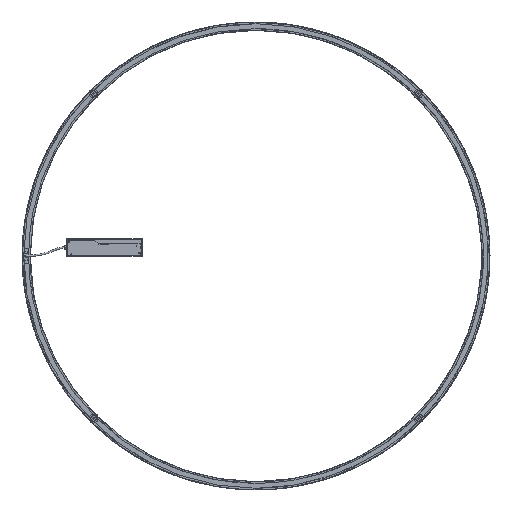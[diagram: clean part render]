
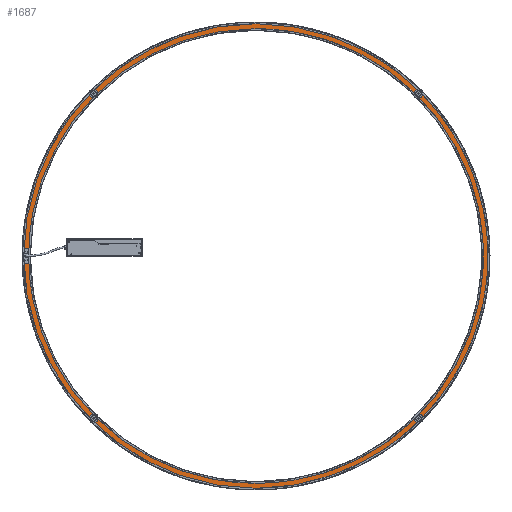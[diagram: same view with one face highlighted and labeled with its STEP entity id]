
A CAD part, top view. The second image highlights one B-rep face of the part: STEP entity #1687.
In plain terms, the highlighted planar face has unit normal (0, 0, 1).
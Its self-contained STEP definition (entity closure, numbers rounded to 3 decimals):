
#1687=ADVANCED_FACE('',(#3451),#24707,.T.);
#3451=FACE_OUTER_BOUND('',#5308,.T.);
#5308=EDGE_LOOP('',(#11810,#11811,#11812,#11813,#11814,#11815,#11816,#11817,
#11818,#11819,#11820,#11821,#11822));
#11810=ORIENTED_EDGE('',*,*,#17045,.T.);
#11811=ORIENTED_EDGE('',*,*,#16777,.F.);
#11812=ORIENTED_EDGE('',*,*,#16987,.F.);
#11813=ORIENTED_EDGE('',*,*,#16014,.F.);
#11814=ORIENTED_EDGE('',*,*,#16018,.F.);
#11815=ORIENTED_EDGE('',*,*,#16760,.T.);
#11816=ORIENTED_EDGE('',*,*,#15848,.T.);
#11817=ORIENTED_EDGE('',*,*,#17050,.T.);
#11818=ORIENTED_EDGE('',*,*,#17039,.T.);
#11819=ORIENTED_EDGE('',*,*,#16990,.T.);
#11820=ORIENTED_EDGE('',*,*,#16011,.T.);
#11821=ORIENTED_EDGE('',*,*,#16007,.T.);
#11822=ORIENTED_EDGE('',*,*,#16989,.T.);
#15848=EDGE_CURVE('',#23193,#23192,#18766,.T.);
#16007=EDGE_CURVE('',#23297,#23298,#18882,.T.);
#16011=EDGE_CURVE('',#23301,#23297,#18884,.T.);
#16014=EDGE_CURVE('',#23303,#23304,#18886,.T.);
#16018=EDGE_CURVE('',#23307,#23303,#18888,.T.);
#16760=EDGE_CURVE('',#23307,#23193,#21353,.T.);
#16777=EDGE_CURVE('',#23786,#23769,#21370,.T.);
#16987=EDGE_CURVE('',#23304,#23786,#19547,.T.);
#16989=EDGE_CURVE('',#23298,#23828,#21445,.T.);
#16990=EDGE_CURVE('',#23830,#23301,#19549,.T.);
#17039=EDGE_CURVE('',#23829,#23830,#21463,.T.);
#17045=EDGE_CURVE('',#23828,#23769,#19581,.T.);
#17050=EDGE_CURVE('',#23192,#23829,#19584,.T.);
#18766=(
BOUNDED_CURVE()
B_SPLINE_CURVE(2,(#78005,#78006,#78007),.UNSPECIFIED.,.F.,.F.)
B_SPLINE_CURVE_WITH_KNOTS((3,3),(-7.521,0.),.UNSPECIFIED.)
CURVE()
GEOMETRIC_REPRESENTATION_ITEM()
RATIONAL_B_SPLINE_CURVE((1.,0.73,1.))
REPRESENTATION_ITEM('')
);
#18882=(
BOUNDED_CURVE()
B_SPLINE_CURVE(2,(#78499,#78500,#78501),.UNSPECIFIED.,.F.,.F.)
B_SPLINE_CURVE_WITH_KNOTS((3,3),(-1528.149,0.),.UNSPECIFIED.)
CURVE()
GEOMETRIC_REPRESENTATION_ITEM()
RATIONAL_B_SPLINE_CURVE((1.,0.707,1.))
REPRESENTATION_ITEM('')
);
#18884=(
BOUNDED_CURVE()
B_SPLINE_CURVE(2,(#78509,#78510,#78511,#78512,#78513),.UNSPECIFIED.,.F.,
 .F.)
B_SPLINE_CURVE_WITH_KNOTS((3,2,3),(-3056.298,-1528.149,
0.),.UNSPECIFIED.)
CURVE()
GEOMETRIC_REPRESENTATION_ITEM()
RATIONAL_B_SPLINE_CURVE((1.,0.707,1.,0.707,1.))
REPRESENTATION_ITEM('')
);
#18886=(
BOUNDED_CURVE()
B_SPLINE_CURVE(2,(#78521,#78522,#78523,#78524,#78525),.UNSPECIFIED.,.F.,
 .F.)
B_SPLINE_CURVE_WITH_KNOTS((3,2,3),(0.,1480.711,2961.422),
 .UNSPECIFIED.)
CURVE()
GEOMETRIC_REPRESENTATION_ITEM()
RATIONAL_B_SPLINE_CURVE((1.,0.707,1.,0.707,1.))
REPRESENTATION_ITEM('')
);
#18888=(
BOUNDED_CURVE()
B_SPLINE_CURVE(2,(#78535,#78536,#78537),.UNSPECIFIED.,.F.,.F.)
B_SPLINE_CURVE_WITH_KNOTS((3,3),(0.,1480.382),.UNSPECIFIED.)
CURVE()
GEOMETRIC_REPRESENTATION_ITEM()
RATIONAL_B_SPLINE_CURVE((1.,0.707,1.))
REPRESENTATION_ITEM('')
);
#19547=(
BOUNDED_CURVE()
B_SPLINE_CURVE(2,(#81428,#81429,#81430),.UNSPECIFIED.,.F.,.F.)
B_SPLINE_CURVE_WITH_KNOTS((3,3),(0.,1480.711),.UNSPECIFIED.)
CURVE()
GEOMETRIC_REPRESENTATION_ITEM()
RATIONAL_B_SPLINE_CURVE((1.,0.707,1.))
REPRESENTATION_ITEM('')
);
#19549=(
BOUNDED_CURVE()
B_SPLINE_CURVE(2,(#81436,#81437,#81438),.UNSPECIFIED.,.F.,.F.)
B_SPLINE_CURVE_WITH_KNOTS((3,3),(-1527.81,0.),.UNSPECIFIED.)
CURVE()
GEOMETRIC_REPRESENTATION_ITEM()
RATIONAL_B_SPLINE_CURVE((1.,0.707,1.))
REPRESENTATION_ITEM('')
);
#19581=(
BOUNDED_CURVE()
B_SPLINE_CURVE(2,(#81578,#81579,#81580,#81581,#81582),.UNSPECIFIED.,.F.,
 .F.)
B_SPLINE_CURVE_WITH_KNOTS((3,2,3),(-15.708,-7.854,
0.),.UNSPECIFIED.)
CURVE()
GEOMETRIC_REPRESENTATION_ITEM()
RATIONAL_B_SPLINE_CURVE((1.,0.707,1.,0.707,1.))
REPRESENTATION_ITEM('')
);
#19584=(
BOUNDED_CURVE()
B_SPLINE_CURVE(2,(#81595,#81596,#81597),.UNSPECIFIED.,.F.,.F.)
B_SPLINE_CURVE_WITH_KNOTS((3,3),(-7.518,0.),.UNSPECIFIED.)
CURVE()
GEOMETRIC_REPRESENTATION_ITEM()
RATIONAL_B_SPLINE_CURVE((1.,0.73,1.))
REPRESENTATION_ITEM('')
);
#21353=B_SPLINE_CURVE_WITH_KNOTS('',1,(#80829,#80830),.UNSPECIFIED.,.F.,
 .F.,(2,2),(-10.111,0.),.UNSPECIFIED.);
#21370=B_SPLINE_CURVE_WITH_KNOTS('',1,(#80863,#80864),.UNSPECIFIED.,.F.,
 .F.,(2,2),(0.,10.1),.UNSPECIFIED.);
#21445=B_SPLINE_CURVE_WITH_KNOTS('',1,(#81434,#81435),.UNSPECIFIED.,.F.,
 .F.,(2,2),(0.,10.1),.UNSPECIFIED.);
#21463=B_SPLINE_CURVE_WITH_KNOTS('',1,(#81566,#81567),.UNSPECIFIED.,.F.,
 .F.,(2,2),(-10.111,0.),.UNSPECIFIED.);
#23192=VERTEX_POINT('',#76656);
#23193=VERTEX_POINT('',#76657);
#23297=VERTEX_POINT('',#76761);
#23298=VERTEX_POINT('',#76762);
#23301=VERTEX_POINT('',#76765);
#23303=VERTEX_POINT('',#76767);
#23304=VERTEX_POINT('',#76768);
#23307=VERTEX_POINT('',#76771);
#23769=VERTEX_POINT('',#77233);
#23786=VERTEX_POINT('',#77250);
#23828=VERTEX_POINT('',#77292);
#23829=VERTEX_POINT('',#77293);
#23830=VERTEX_POINT('',#77294);
#24707=PLANE('',#26407);
#26407=AXIS2_PLACEMENT_3D('',#75049,#26932,$);
#26932=DIRECTION('',(0.,0.,1.));
#75049=CARTESIAN_POINT('',(-1167.42,1138.372,2.348));
#76656=CARTESIAN_POINT('',(-957.75,-34.048,2.348));
#76657=CARTESIAN_POINT('',(-952.761,-29.381,2.348));
#76761=CARTESIAN_POINT('',(0.,943.802,2.348));
#76762=CARTESIAN_POINT('',(-972.85,-29.048,2.348));
#76765=CARTESIAN_POINT('',(0.,-1001.898,2.348));
#76767=CARTESIAN_POINT('',(0.,-971.698,2.348));
#76768=CARTESIAN_POINT('',(0.,913.602,2.348));
#76771=CARTESIAN_POINT('',(-942.65,-29.377,2.348));
#77233=CARTESIAN_POINT('',(-952.75,-29.048,2.348));
#77250=CARTESIAN_POINT('',(-942.65,-29.048,2.348));
#77292=CARTESIAN_POINT('',(-962.75,-29.048,2.348));
#77293=CARTESIAN_POINT('',(-962.739,-29.384,2.348));
#77294=CARTESIAN_POINT('',(-972.85,-29.388,2.348));
#78005=CARTESIAN_POINT('',(-952.761,-29.381,2.348));
#78006=CARTESIAN_POINT('',(-953.072,-34.048,2.348));
#78007=CARTESIAN_POINT('',(-957.75,-34.048,2.348));
#78499=CARTESIAN_POINT('',(0.,943.802,2.348));
#78500=CARTESIAN_POINT('',(-972.85,943.802,2.348));
#78501=CARTESIAN_POINT('',(-972.85,-29.048,2.348));
#78509=CARTESIAN_POINT('',(0.,-1001.898,2.348));
#78510=CARTESIAN_POINT('',(972.85,-1001.898,2.348));
#78511=CARTESIAN_POINT('',(972.85,-29.048,2.348));
#78512=CARTESIAN_POINT('',(972.85,943.802,2.348));
#78513=CARTESIAN_POINT('',(0.,943.802,2.348));
#78521=CARTESIAN_POINT('',(0.,-971.698,2.348));
#78522=CARTESIAN_POINT('',(942.65,-971.698,2.348));
#78523=CARTESIAN_POINT('',(942.65,-29.048,2.348));
#78524=CARTESIAN_POINT('',(942.65,913.602,2.348));
#78525=CARTESIAN_POINT('',(0.,913.602,2.348));
#78535=CARTESIAN_POINT('',(-942.65,-29.377,2.348));
#78536=CARTESIAN_POINT('',(-942.321,-971.698,2.348));
#78537=CARTESIAN_POINT('',(0.,-971.698,2.348));
#80829=CARTESIAN_POINT('',(-942.65,-29.377,2.348));
#80830=CARTESIAN_POINT('',(-952.761,-29.381,2.348));
#80863=CARTESIAN_POINT('',(-942.65,-29.048,2.348));
#80864=CARTESIAN_POINT('',(-952.75,-29.048,2.348));
#81428=CARTESIAN_POINT('',(0.,913.602,2.348));
#81429=CARTESIAN_POINT('',(-942.65,913.602,2.348));
#81430=CARTESIAN_POINT('',(-942.65,-29.048,2.348));
#81434=CARTESIAN_POINT('',(-972.85,-29.048,2.348));
#81435=CARTESIAN_POINT('',(-962.75,-29.048,2.348));
#81436=CARTESIAN_POINT('',(-972.85,-29.388,2.348));
#81437=CARTESIAN_POINT('',(-972.51,-1001.898,2.348));
#81438=CARTESIAN_POINT('',(0.,-1001.898,2.348));
#81566=CARTESIAN_POINT('',(-962.739,-29.384,2.348));
#81567=CARTESIAN_POINT('',(-972.85,-29.388,2.348));
#81578=CARTESIAN_POINT('',(-962.75,-29.048,2.348));
#81579=CARTESIAN_POINT('',(-962.75,-24.048,2.348));
#81580=CARTESIAN_POINT('',(-957.75,-24.048,2.348));
#81581=CARTESIAN_POINT('',(-952.75,-24.048,2.348));
#81582=CARTESIAN_POINT('',(-952.75,-29.048,2.348));
#81595=CARTESIAN_POINT('',(-957.75,-34.048,2.348));
#81596=CARTESIAN_POINT('',(-962.425,-34.048,2.348));
#81597=CARTESIAN_POINT('',(-962.739,-29.384,2.348));
